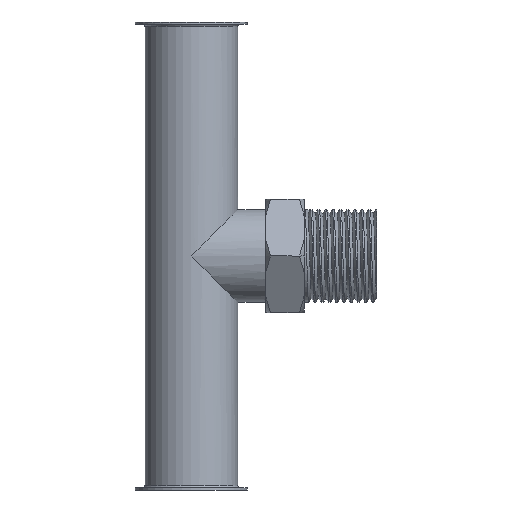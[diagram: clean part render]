
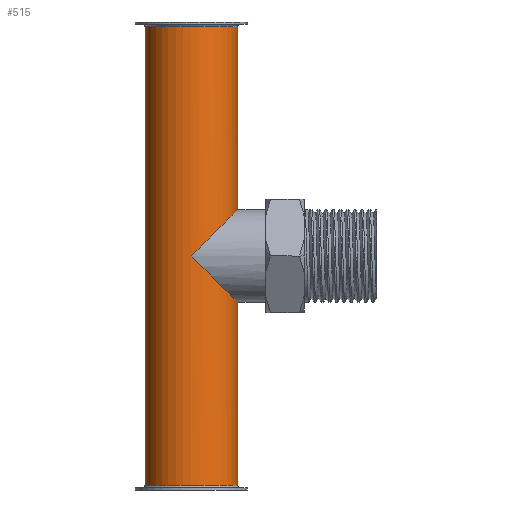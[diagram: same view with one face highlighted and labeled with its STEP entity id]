
A CAD part, front view. The second image highlights one B-rep face of the part: STEP entity #515.
In plain terms, the highlighted cylindrical face has radius 9.61 mm (diameter 19.22 mm), a partial arc.
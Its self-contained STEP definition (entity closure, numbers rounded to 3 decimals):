
#187 = VERTEX_POINT ( 'NONE', #487 ) ;
#221 = LINE ( 'NONE', #3355, #894 ) ;
#233 = CARTESIAN_POINT ( 'NONE',  ( 9.61, 0., 58.11 ) ) ;
#249 = DIRECTION ( 'NONE',  ( -1., 0., 0. ) ) ;
#273 = ORIENTED_EDGE ( 'NONE', *, *, #1185, .T. ) ;
#316 = CYLINDRICAL_SURFACE ( 'NONE', #2816, 9.61 ) ;
#349 = ORIENTED_EDGE ( 'NONE', *, *, #3309, .F. ) ;
#408 = VECTOR ( 'NONE', #3022, 1000. ) ;
#487 = CARTESIAN_POINT ( 'NONE',  ( 9.61, 0., 58.11 ) ) ;
#509 = CARTESIAN_POINT ( 'NONE',  ( 9.61, 0., 97. ) ) ;
#515 = ADVANCED_FACE ( 'NONE', ( #1838 ), #316, .T. ) ;
#523 = CARTESIAN_POINT ( 'NONE',  ( 5.629, -9.61, 54.129 ) ) ;
#587 = DIRECTION ( 'NONE',  ( 0., 0., 1. ) ) ;
#611 = DIRECTION ( 'NONE',  ( 0., 0., -1. ) ) ;
#617 = CARTESIAN_POINT ( 'NONE',  ( 9.61, 0., 38.89 ) ) ;
#799 = CARTESIAN_POINT ( 'NONE',  ( 9.61, 0., 1. ) ) ;
#837 = VERTEX_POINT ( 'NONE', #3440 ) ;
#842 = CARTESIAN_POINT ( 'NONE',  ( 9.61, 0., 38.89 ) ) ;
#864 = ORIENTED_EDGE ( 'NONE', *, *, #904, .T. ) ;
#894 = VECTOR ( 'NONE', #1041, 1000. ) ;
#904 = EDGE_CURVE ( 'NONE', #2465, #3634, #1976, .T. ) ;
#995 = VECTOR ( 'NONE', #1945, 1000. ) ;
#1001 = AXIS2_PLACEMENT_3D ( 'NONE', #2321, #587, #2612 ) ;
#1041 = DIRECTION ( 'NONE',  ( 0., 0., -1. ) ) ;
#1076 = LINE ( 'NONE', #1300, #408 ) ;
#1083 = AXIS2_PLACEMENT_3D ( 'NONE', #2343, #611, #2640 ) ;
#1106 = CARTESIAN_POINT ( 'NONE',  ( 0., 0., 97. ) ) ;
#1185 = EDGE_CURVE ( 'NONE', #1454, #2655, #3054, .T. ) ;
#1300 = CARTESIAN_POINT ( 'NONE',  ( 9.61, 0., 97. ) ) ;
#1325 = ORIENTED_EDGE ( 'NONE', *, *, #1489, .F. ) ;
#1454 = VERTEX_POINT ( 'NONE', #2807 ) ;
#1489 = EDGE_CURVE ( 'NONE', #1454, #187, #3311, .T. ) ;
#1492 = EDGE_CURVE ( 'NONE', #187, #837, #2663, .T. ) ;
#1788 = ORIENTED_EDGE ( 'NONE', *, *, #3419, .F. ) ;
#1838 = FACE_OUTER_BOUND ( 'NONE', #2364, .T. ) ;
#1945 = DIRECTION ( 'NONE',  ( 0., 0., -1. ) ) ;
#1958 = CARTESIAN_POINT ( 'NONE',  ( 9.61, -5.629, 58.11 ) ) ;
#1976 = CIRCLE ( 'NONE', #1001, 9.61 ) ;
#2321 = CARTESIAN_POINT ( 'NONE',  ( 0., 0., 1. ) ) ;
#2343 = CARTESIAN_POINT ( 'NONE',  ( 0., 0., 96. ) ) ;
#2350 = CARTESIAN_POINT ( 'NONE',  ( 9.61, -5.629, 38.89 ) ) ;
#2363 = ORIENTED_EDGE ( 'NONE', *, *, #3539, .T. ) ;
#2364 = EDGE_LOOP ( 'NONE', ( #1325, #273, #2363, #864, #1788, #349, #2449 ) ) ;
#2423 = CARTESIAN_POINT ( 'NONE',  ( -9.61, 0., 1. ) ) ;
#2449 = ORIENTED_EDGE ( 'NONE', *, *, #1492, .F. ) ;
#2465 = VERTEX_POINT ( 'NONE', #2423 ) ;
#2547 = CARTESIAN_POINT ( 'NONE',  ( 0., -9.61, 48.5 ) ) ;
#2612 = DIRECTION ( 'NONE',  ( 1., 0., 0. ) ) ;
#2640 = DIRECTION ( 'NONE',  ( -1., 0., 0. ) ) ;
#2655 = VERTEX_POINT ( 'NONE', #3351 ) ;
#2657 =( BOUNDED_CURVE ( )  B_SPLINE_CURVE ( 3, ( #3201, #3499, #2350, #617 ),
 .UNSPECIFIED., .F., .F. ) 
 B_SPLINE_CURVE_WITH_KNOTS ( ( 4, 4 ),
 ( 4.712, 6.283 ),
 .UNSPECIFIED. ) 
 CURVE ( )  GEOMETRIC_REPRESENTATION_ITEM ( )  RATIONAL_B_SPLINE_CURVE ( ( 1., 0.805, 0.805, 1. ) ) 
 REPRESENTATION_ITEM ( '' )  );
#2663 =( BOUNDED_CURVE ( )  B_SPLINE_CURVE ( 3, ( #233, #1958, #523, #2547 ),
 .UNSPECIFIED., .F., .F. ) 
 B_SPLINE_CURVE_WITH_KNOTS ( ( 4, 4 ),
 ( 3.142, 4.712 ),
 .UNSPECIFIED. ) 
 CURVE ( )  GEOMETRIC_REPRESENTATION_ITEM ( )  RATIONAL_B_SPLINE_CURVE ( ( 1., 0.805, 0.805, 1. ) ) 
 REPRESENTATION_ITEM ( '' )  );
#2807 = CARTESIAN_POINT ( 'NONE',  ( 9.61, 0., 96. ) ) ;
#2816 = AXIS2_PLACEMENT_3D ( 'NONE', #1106, #2837, #249 ) ;
#2837 = DIRECTION ( 'NONE',  ( 0., 0., -1. ) ) ;
#3022 = DIRECTION ( 'NONE',  ( 0., 0., -1. ) ) ;
#3054 = CIRCLE ( 'NONE', #1083, 9.61 ) ;
#3201 = CARTESIAN_POINT ( 'NONE',  ( 0., -9.61, 48.5 ) ) ;
#3309 = EDGE_CURVE ( 'NONE', #837, #3709, #2657, .T. ) ;
#3311 = LINE ( 'NONE', #509, #995 ) ;
#3351 = CARTESIAN_POINT ( 'NONE',  ( -9.61, 0., 96. ) ) ;
#3355 = CARTESIAN_POINT ( 'NONE',  ( -9.61, 0., 97. ) ) ;
#3419 = EDGE_CURVE ( 'NONE', #3709, #3634, #1076, .T. ) ;
#3440 = CARTESIAN_POINT ( 'NONE',  ( 0., -9.61, 48.5 ) ) ;
#3499 = CARTESIAN_POINT ( 'NONE',  ( 5.629, -9.61, 42.871 ) ) ;
#3539 = EDGE_CURVE ( 'NONE', #2655, #2465, #221, .T. ) ;
#3634 = VERTEX_POINT ( 'NONE', #799 ) ;
#3709 = VERTEX_POINT ( 'NONE', #842 ) ;
